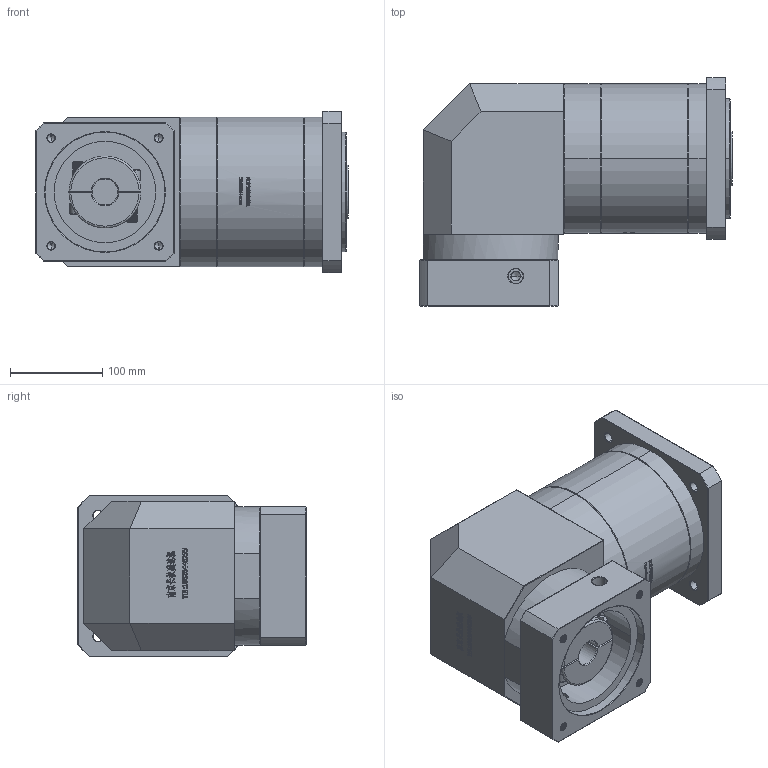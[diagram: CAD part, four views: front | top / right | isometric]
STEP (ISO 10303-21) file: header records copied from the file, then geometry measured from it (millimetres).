
FILE_DESCRIPTION (( 'STEP AP214' ), '1' );
FILE_NAME ('ZFR160A-K35-L3-28-130-165-M10.step', '2023-03-22T11:49:29', ( '' ), ( '' ), 'SwSTEP 2.0', 'SolidWorks 2016', '' );
FILE_SCHEMA (( 'AUTOMOTIVE_DESIGN' ));
Length unit declared in the file: millimetre
Products named in the file (1): ZFR160A-K35-L3-28-130-165-M10
Bounding box: 338.7 x 247.5 x 175 mm (x, y, z)
Volume: 8117701.9 mm3; surface area: 476335 mm2
Topology: 6 solids, 6 shells, 2461 faces, 6474 edges, 4165 vertices
Faces by surface type: plane 1268, bspline 494, cylinder 376, cone 303, torus 20
Entity records: 137269 total; most frequent: CARTESIAN_POINT 53629, ORIENTED_EDGE 12892, DIRECTION 9825, EDGE_CURVE 6446, VERTEX_POINT 4165, VECTOR 4097, LINE 4097, AXIS2_PLACEMENT_3D 2864
